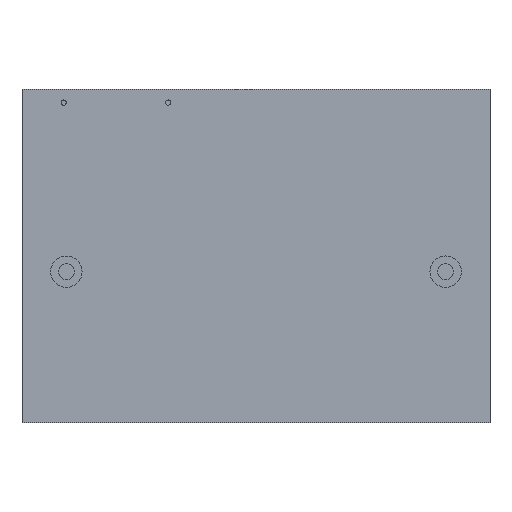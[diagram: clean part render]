
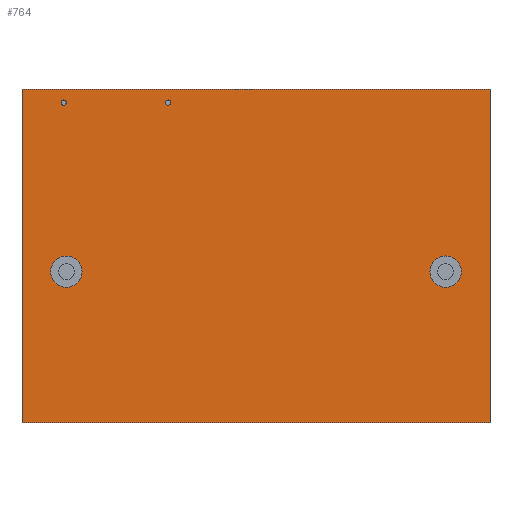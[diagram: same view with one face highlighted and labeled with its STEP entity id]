
A CAD part, front view. The second image highlights one B-rep face of the part: STEP entity #764.
In plain terms, the highlighted planar face has unit normal (0, -1, 0).
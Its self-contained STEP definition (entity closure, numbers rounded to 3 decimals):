
#33 = EDGE_CURVE ( 'NONE', #574, #576, #680, .T. ) ;
#47 = EDGE_CURVE ( 'NONE', #581, #649, #669, .T. ) ;
#49 = EDGE_CURVE ( 'NONE', #569, #624, #690, .T. ) ;
#52 = EDGE_CURVE ( 'NONE', #644, #550, #524, .T. ) ;
#57 = EDGE_CURVE ( 'NONE', #586, #577, #513, .T. ) ;
#58 = EDGE_CURVE ( 'NONE', #649, #581, #657, .T. ) ;
#59 = EDGE_CURVE ( 'NONE', #624, #570, #686, .T. ) ;
#60 = EDGE_CURVE ( 'NONE', #573, #569, #658, .T. ) ;
#61 = EDGE_CURVE ( 'NONE', #550, #644, #693, .T. ) ;
#62 = EDGE_CURVE ( 'NONE', #576, #574, #656, .T. ) ;
#73 = AXIS2_PLACEMENT_3D ( 'NONE', #950, #947, #949 ) ;
#74 = AXIS2_PLACEMENT_3D ( 'NONE', #377, #966, #973 ) ;
#77 = EDGE_CURVE ( 'NONE', #577, #586, #653, .T. ) ;
#88 = AXIS2_PLACEMENT_3D ( 'NONE', #858, #846, #871 ) ;
#91 = AXIS2_PLACEMENT_3D ( 'NONE', #948, #963, #960 ) ;
#92 = AXIS2_PLACEMENT_3D ( 'NONE', #954, #955, #956 ) ;
#93 = AXIS2_PLACEMENT_3D ( 'NONE', #958, #962, #970 ) ;
#96 = AXIS2_PLACEMENT_3D ( 'NONE', #978, #976, #972 ) ;
#98 = AXIS2_PLACEMENT_3D ( 'NONE', #355, #360, #352 ) ;
#168 = EDGE_CURVE ( 'NONE', #570, #573, #457, .T. ) ;
#173 = AXIS2_PLACEMENT_3D ( 'NONE', #257, #253, #259 ) ;
#253 = DIRECTION ( 'NONE',  ( 0., -1., 0. ) ) ;
#256 = PLANE ( 'NONE',  #173 ) ;
#257 = CARTESIAN_POINT ( 'NONE',  ( 22.425, 2.5, -14.5 ) ) ;
#259 = DIRECTION ( 'NONE',  ( 0., 0., -1. ) ) ;
#352 = DIRECTION ( 'NONE',  ( 0., 0., -1. ) ) ;
#355 = CARTESIAN_POINT ( 'NONE',  ( -8.425, 2.5, 16.2 ) ) ;
#360 = DIRECTION ( 'NONE',  ( 0., -1., 0. ) ) ;
#377 = CARTESIAN_POINT ( 'NONE',  ( -18.17, 2.5, 0. ) ) ;
#388 = EDGE_LOOP ( 'NONE', ( #607, #605 ) ) ;
#433 = ORIENTED_EDGE ( 'NONE', *, *, #33, .F. ) ;
#449 = VECTOR ( 'NONE', #776, 1000. ) ;
#457 = LINE ( 'NONE', #800, #449 ) ;
#513 = CIRCLE ( 'NONE', #92, 0.25 ) ;
#524 = CIRCLE ( 'NONE', #96, 1.5 ) ;
#550 = VERTEX_POINT ( 'NONE', #803 ) ;
#569 = VERTEX_POINT ( 'NONE', #784 ) ;
#570 = VERTEX_POINT ( 'NONE', #773 ) ;
#573 = VERTEX_POINT ( 'NONE', #783 ) ;
#574 = VERTEX_POINT ( 'NONE', #790 ) ;
#576 = VERTEX_POINT ( 'NONE', #780 ) ;
#577 = VERTEX_POINT ( 'NONE', #781 ) ;
#581 = VERTEX_POINT ( 'NONE', #778 ) ;
#582 = EDGE_LOOP ( 'NONE', ( #600, #598, #604, #599 ) ) ;
#586 = VERTEX_POINT ( 'NONE', #798 ) ;
#596 = EDGE_LOOP ( 'NONE', ( #609, #613 ) ) ;
#598 = ORIENTED_EDGE ( 'NONE', *, *, #60, .F. ) ;
#599 = ORIENTED_EDGE ( 'NONE', *, *, #59, .F. ) ;
#600 = ORIENTED_EDGE ( 'NONE', *, *, #49, .F. ) ;
#604 = ORIENTED_EDGE ( 'NONE', *, *, #168, .F. ) ;
#605 = ORIENTED_EDGE ( 'NONE', *, *, #52, .F. ) ;
#606 = ORIENTED_EDGE ( 'NONE', *, *, #47, .F. ) ;
#607 = ORIENTED_EDGE ( 'NONE', *, *, #61, .F. ) ;
#608 = ORIENTED_EDGE ( 'NONE', *, *, #58, .F. ) ;
#609 = ORIENTED_EDGE ( 'NONE', *, *, #57, .F. ) ;
#613 = ORIENTED_EDGE ( 'NONE', *, *, #77, .F. ) ;
#624 = VERTEX_POINT ( 'NONE', #819 ) ;
#627 = EDGE_LOOP ( 'NONE', ( #608, #606 ) ) ;
#644 = VERTEX_POINT ( 'NONE', #830 ) ;
#649 = VERTEX_POINT ( 'NONE', #829 ) ;
#653 = CIRCLE ( 'NONE', #88, 0.25 ) ;
#656 = CIRCLE ( 'NONE', #91, 0.25 ) ;
#657 = CIRCLE ( 'NONE', #93, 1.5 ) ;
#658 = LINE ( 'NONE', #943, #694 ) ;
#662 = EDGE_LOOP ( 'NONE', ( #689, #433 ) ) ;
#668 = VECTOR ( 'NONE', #984, 1000. ) ;
#669 = CIRCLE ( 'NONE', #74, 1.5 ) ;
#680 = CIRCLE ( 'NONE', #98, 0.25 ) ;
#686 = LINE ( 'NONE', #957, #692 ) ;
#689 = ORIENTED_EDGE ( 'NONE', *, *, #62, .F. ) ;
#690 = LINE ( 'NONE', #987, #668 ) ;
#692 = VECTOR ( 'NONE', #944, 1000. ) ;
#693 = CIRCLE ( 'NONE', #73, 1.5 ) ;
#694 = VECTOR ( 'NONE', #946, 1000. ) ;
#764 = ADVANCED_FACE ( 'NONE', ( #910, #933, #909, #914, #920 ), #256, .T. ) ;
#773 = CARTESIAN_POINT ( 'NONE',  ( -22.425, 2.5, -14.5 ) ) ;
#776 = DIRECTION ( 'NONE',  ( 0., 0., 1. ) ) ;
#778 = CARTESIAN_POINT ( 'NONE',  ( -18.17, 2.5, -1.5 ) ) ;
#780 = CARTESIAN_POINT ( 'NONE',  ( -8.425, 2.5, 16.45 ) ) ;
#781 = CARTESIAN_POINT ( 'NONE',  ( -18.425, 2.5, 15.95 ) ) ;
#783 = CARTESIAN_POINT ( 'NONE',  ( -22.425, 2.5, 17.5 ) ) ;
#784 = CARTESIAN_POINT ( 'NONE',  ( 22.425, 2.5, 17.5 ) ) ;
#790 = CARTESIAN_POINT ( 'NONE',  ( -8.425, 2.5, 15.95 ) ) ;
#798 = CARTESIAN_POINT ( 'NONE',  ( -18.425, 2.5, 16.45 ) ) ;
#800 = CARTESIAN_POINT ( 'NONE',  ( -22.425, 2.5, 17.5 ) ) ;
#803 = CARTESIAN_POINT ( 'NONE',  ( 18.17, 2.5, 1.5 ) ) ;
#819 = CARTESIAN_POINT ( 'NONE',  ( 22.425, 2.5, -14.5 ) ) ;
#829 = CARTESIAN_POINT ( 'NONE',  ( -18.17, 2.5, 1.5 ) ) ;
#830 = CARTESIAN_POINT ( 'NONE',  ( 18.17, 2.5, -1.5 ) ) ;
#846 = DIRECTION ( 'NONE',  ( 0., -1., 0. ) ) ;
#858 = CARTESIAN_POINT ( 'NONE',  ( -18.425, 2.5, 16.2 ) ) ;
#871 = DIRECTION ( 'NONE',  ( 0., 0., -1. ) ) ;
#909 = FACE_OUTER_BOUND ( 'NONE', #582, .T. ) ;
#910 = FACE_BOUND ( 'NONE', #596, .T. ) ;
#914 = FACE_BOUND ( 'NONE', #388, .T. ) ;
#920 = FACE_BOUND ( 'NONE', #662, .T. ) ;
#933 = FACE_BOUND ( 'NONE', #627, .T. ) ;
#943 = CARTESIAN_POINT ( 'NONE',  ( -22.425, 2.5, 17.5 ) ) ;
#944 = DIRECTION ( 'NONE',  ( -1., 0., 0. ) ) ;
#946 = DIRECTION ( 'NONE',  ( 1., 0., 0. ) ) ;
#947 = DIRECTION ( 'NONE',  ( 0., -1., 0. ) ) ;
#948 = CARTESIAN_POINT ( 'NONE',  ( -8.425, 2.5, 16.2 ) ) ;
#949 = DIRECTION ( 'NONE',  ( 0., 0., 1. ) ) ;
#950 = CARTESIAN_POINT ( 'NONE',  ( 18.17, 2.5, 0. ) ) ;
#954 = CARTESIAN_POINT ( 'NONE',  ( -18.425, 2.5, 16.2 ) ) ;
#955 = DIRECTION ( 'NONE',  ( 0., -1., 0. ) ) ;
#956 = DIRECTION ( 'NONE',  ( 0., 0., -1. ) ) ;
#957 = CARTESIAN_POINT ( 'NONE',  ( -22.425, 2.5, -14.5 ) ) ;
#958 = CARTESIAN_POINT ( 'NONE',  ( -18.17, 2.5, 0. ) ) ;
#960 = DIRECTION ( 'NONE',  ( 0., 0., -1. ) ) ;
#962 = DIRECTION ( 'NONE',  ( 0., -1., 0. ) ) ;
#963 = DIRECTION ( 'NONE',  ( 0., -1., 0. ) ) ;
#966 = DIRECTION ( 'NONE',  ( 0., -1., 0. ) ) ;
#970 = DIRECTION ( 'NONE',  ( 0., 0., -1. ) ) ;
#972 = DIRECTION ( 'NONE',  ( 0., 0., 1. ) ) ;
#973 = DIRECTION ( 'NONE',  ( 0., 0., -1. ) ) ;
#976 = DIRECTION ( 'NONE',  ( 0., -1., 0. ) ) ;
#978 = CARTESIAN_POINT ( 'NONE',  ( 18.17, 2.5, 0. ) ) ;
#984 = DIRECTION ( 'NONE',  ( 0., 0., -1. ) ) ;
#987 = CARTESIAN_POINT ( 'NONE',  ( 22.425, 2.5, 17.5 ) ) ;
